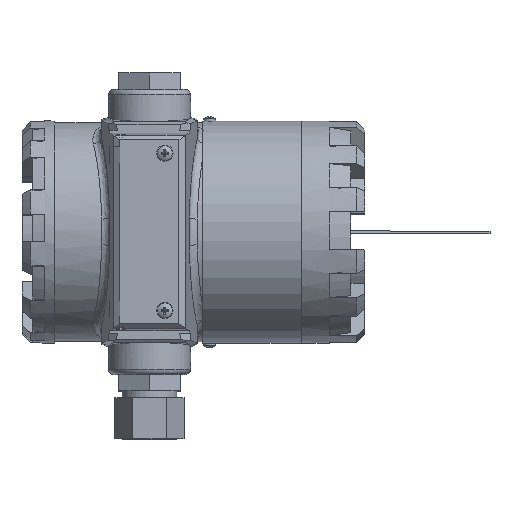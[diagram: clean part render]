
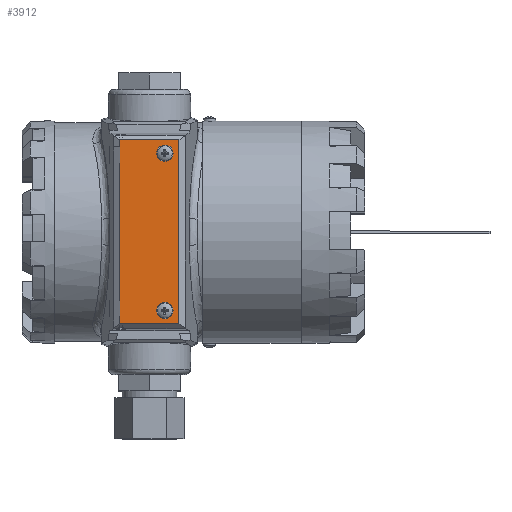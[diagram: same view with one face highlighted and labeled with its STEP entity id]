
A CAD part, top view. The second image highlights one B-rep face of the part: STEP entity #3912.
In plain terms, the highlighted planar face has unit normal (0, 0, 1).
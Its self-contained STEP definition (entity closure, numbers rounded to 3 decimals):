
#3912=ADVANCED_FACE('',(#12102,#12104,#12106),#12108,.T.);
#12102=FACE_BOUND('',#12103,.T.);
#12103=EDGE_LOOP('',(#20076,#20077,#20078,#20079,#20080,#20081,#20082,#20083,#20084,
#20085,#20086,#20087));
#12104=FACE_BOUND('',#12105,.T.);
#12105=EDGE_LOOP('',(#20088));
#12106=FACE_BOUND('',#12107,.T.);
#12107=EDGE_LOOP('',(#20089));
#12108=PLANE('',#12109);
#12109=AXIS2_PLACEMENT_3D('',#12110,#12111,#12112);
#12110=CARTESIAN_POINT('',(0.,0.,130.182));
#12111=DIRECTION('',(0.,0.,1.));
#12112=DIRECTION('',(-1.,0.,0.));
#20076=ORIENTED_EDGE('',*,*,#23776,.T.);
#20077=ORIENTED_EDGE('',*,*,#24126,.T.);
#20078=ORIENTED_EDGE('',*,*,#23773,.F.);
#20079=ORIENTED_EDGE('',*,*,#24127,.T.);
#20080=ORIENTED_EDGE('',*,*,#23770,.T.);
#20081=ORIENTED_EDGE('',*,*,#24128,.T.);
#20082=ORIENTED_EDGE('',*,*,#23767,.F.);
#20083=ORIENTED_EDGE('',*,*,#23760,.T.);
#20084=ORIENTED_EDGE('',*,*,#24103,.T.);
#20085=ORIENTED_EDGE('',*,*,#23780,.T.);
#20086=ORIENTED_EDGE('',*,*,#23778,.F.);
#20087=ORIENTED_EDGE('',*,*,#24129,.T.);
#20088=ORIENTED_EDGE('',*,*,#24130,.T.);
#20089=ORIENTED_EDGE('',*,*,#24131,.T.);
#23760=EDGE_CURVE('',#26951,#26952,#26953,.F.);
#23767=EDGE_CURVE('',#26951,#26961,#26963,.T.);
#23770=EDGE_CURVE('',#26964,#26966,#26968,.F.);
#23773=EDGE_CURVE('',#26971,#26969,#26973,.T.);
#23776=EDGE_CURVE('',#26974,#26976,#26978,.F.);
#23778=EDGE_CURVE('',#26979,#26981,#26982,.T.);
#23780=EDGE_CURVE('',#26984,#26981,#26985,.F.);
#24103=EDGE_CURVE('',#26952,#26984,#27480,.T.);
#24126=EDGE_CURVE('',#26976,#26969,#27514,.T.);
#24127=EDGE_CURVE('',#26971,#26964,#27515,.T.);
#24128=EDGE_CURVE('',#26966,#26961,#27516,.T.);
#24129=EDGE_CURVE('',#26979,#26974,#27517,.T.);
#24130=EDGE_CURVE('',#27518,#27518,#27519,.F.);
#24131=EDGE_CURVE('',#27520,#27520,#27521,.F.);
#26951=VERTEX_POINT('',#38287);
#26952=VERTEX_POINT('',#38288);
#26953=LINE('',#38289,#38290);
#26961=VERTEX_POINT('',#38311);
#26963=LINE('',#38315,#38316);
#26964=VERTEX_POINT('',#38318);
#26966=VERTEX_POINT('',#38322);
#26968=LINE('',#38326,#38327);
#26969=VERTEX_POINT('',#38329);
#26971=VERTEX_POINT('',#38333);
#26973=LINE('',#38337,#38338);
#26974=VERTEX_POINT('',#38340);
#26976=VERTEX_POINT('',#38344);
#26978=LINE('',#38348,#38349);
#26979=VERTEX_POINT('',#38351);
#26981=VERTEX_POINT('',#38355);
#26982=LINE('',#38356,#38357);
#26984=VERTEX_POINT('',#38362);
#26985=LINE('',#38363,#38364);
#27480=LINE('',#39876,#39877);
#27514=LINE('',#40038,#40039);
#27515=LINE('',#40041,#40042);
#27516=LINE('',#40044,#40045);
#27517=LINE('',#40047,#40048);
#27518=VERTEX_POINT('',#40050);
#27519=CIRCLE('',#40051,3.);
#27520=VERTEX_POINT('',#40055);
#27521=CIRCLE('',#40056,3.);
#38287=CARTESIAN_POINT('',(-21.267,-33.589,130.182));
#38288=CARTESIAN_POINT('',(0.267,-33.589,130.182));
#38289=CARTESIAN_POINT('',(0.267,-33.589,130.182));
#38290=VECTOR('',#38291,1.);
#38291=DIRECTION('',(-1.,0.,0.));
#38311=CARTESIAN_POINT('',(-21.267,-31.,130.182));
#38315=CARTESIAN_POINT('',(-21.267,-33.589,130.182));
#38316=VECTOR('',#38317,1.);
#38317=DIRECTION('',(0.,1.,0.));
#38318=CARTESIAN_POINT('',(-21.267,-25.,130.182));
#38322=CARTESIAN_POINT('',(-21.267,-31.,130.182));
#38326=CARTESIAN_POINT('',(-21.267,-31.,130.182));
#38327=VECTOR('',#38328,1.);
#38328=DIRECTION('',(0.,1.,0.));
#38329=CARTESIAN_POINT('',(-21.267,25.,130.182));
#38333=CARTESIAN_POINT('',(-21.267,-25.,130.182));
#38337=CARTESIAN_POINT('',(-21.267,-25.,130.182));
#38338=VECTOR('',#38339,1.);
#38339=DIRECTION('',(0.,1.,0.));
#38340=CARTESIAN_POINT('',(-21.267,31.,130.182));
#38344=CARTESIAN_POINT('',(-21.267,25.,130.182));
#38348=CARTESIAN_POINT('',(-21.267,25.,130.182));
#38349=VECTOR('',#38350,1.);
#38350=DIRECTION('',(0.,1.,0.));
#38351=CARTESIAN_POINT('',(-21.267,31.,130.182));
#38355=CARTESIAN_POINT('',(-21.267,33.589,130.182));
#38356=CARTESIAN_POINT('',(-21.267,31.,130.182));
#38357=VECTOR('',#38358,1.);
#38358=DIRECTION('',(0.,1.,0.));
#38362=CARTESIAN_POINT('',(0.267,33.589,130.182));
#38363=CARTESIAN_POINT('',(-21.267,33.589,130.182));
#38364=VECTOR('',#38365,1.);
#38365=DIRECTION('',(1.,0.,0.));
#39876=CARTESIAN_POINT('',(0.267,-33.589,130.182));
#39877=VECTOR('',#39878,1.);
#39878=DIRECTION('',(0.,1.,0.));
#40038=CARTESIAN_POINT('',(-21.267,25.,130.182));
#40039=VECTOR('',#40040,1.);
#40040=DIRECTION('',(1.,0.,0.));
#40041=CARTESIAN_POINT('',(-21.267,-25.,130.182));
#40042=VECTOR('',#40043,1.);
#40043=DIRECTION('',(-1.,0.,0.));
#40044=CARTESIAN_POINT('',(-21.267,-31.,130.182));
#40045=VECTOR('',#40046,1.);
#40046=DIRECTION('',(1.,0.,0.));
#40047=CARTESIAN_POINT('',(-21.267,31.,130.182));
#40048=VECTOR('',#40049,1.);
#40049=DIRECTION('',(-1.,0.,0.));
#40050=CARTESIAN_POINT('',(-1.88,28.689,130.182));
#40051=AXIS2_PLACEMENT_3D('',#40052,#40053,#40054);
#40052=CARTESIAN_POINT('',(-4.88,28.689,130.182));
#40053=DIRECTION('',(0.,0.,1.));
#40054=DIRECTION('',(1.,0.,0.));
#40055=CARTESIAN_POINT('',(-1.88,-28.689,130.182));
#40056=AXIS2_PLACEMENT_3D('',#40057,#40058,#40059);
#40057=CARTESIAN_POINT('',(-4.88,-28.689,130.182));
#40058=DIRECTION('',(0.,0.,1.));
#40059=DIRECTION('',(1.,0.,0.));
